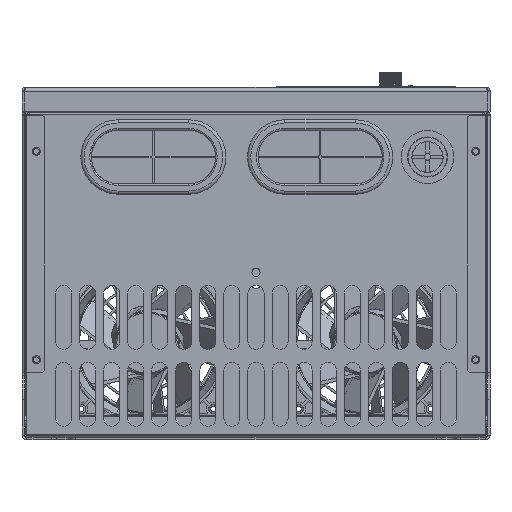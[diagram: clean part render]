
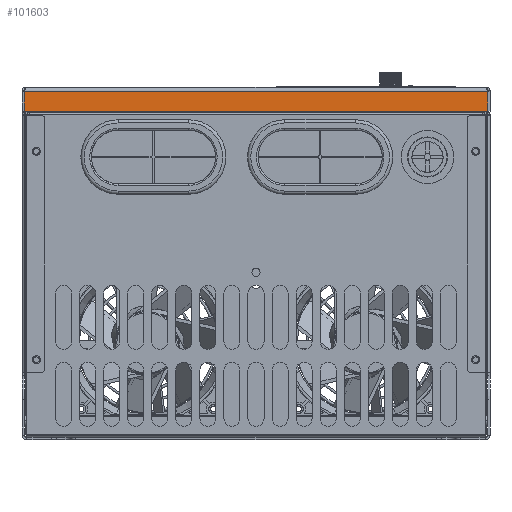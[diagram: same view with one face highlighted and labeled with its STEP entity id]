
A CAD part, front view. The second image highlights one B-rep face of the part: STEP entity #101603.
In plain terms, the highlighted planar face has unit normal (0, -1, 0).
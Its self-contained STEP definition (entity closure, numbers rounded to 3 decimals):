
#31005=DIRECTION('',(1.,0.,0.));
#31006=VECTOR('',#31005,289.);
#31007=CARTESIAN_POINT('',(-144.5,-232.6,215.8));
#31008=LINE('',#31007,#31006);
#31035=DIRECTION('',(0.,0.,-1.));
#31036=VECTOR('',#31035,12.3);
#31037=CARTESIAN_POINT('',(-144.5,-232.6,215.8));
#31038=LINE('',#31037,#31036);
#31047=DIRECTION('',(1.,0.,0.));
#31048=VECTOR('',#31047,289.);
#31049=CARTESIAN_POINT('',(-144.5,-232.6,203.5));
#31050=LINE('',#31049,#31048);
#31059=DIRECTION('',(0.,0.,-1.));
#31060=VECTOR('',#31059,12.3);
#31061=CARTESIAN_POINT('',(144.5,-232.6,215.8));
#31062=LINE('',#31061,#31060);
#45235=CARTESIAN_POINT('',(-144.5,-232.6,215.8));
#45236=CARTESIAN_POINT('',(-144.5,-232.6,203.5));
#45237=VERTEX_POINT('',#45235);
#45238=VERTEX_POINT('',#45236);
#45245=CARTESIAN_POINT('',(144.5,-232.6,203.5));
#45246=VERTEX_POINT('',#45245);
#45278=CARTESIAN_POINT('',(144.5,-232.6,215.8));
#45279=VERTEX_POINT('',#45278);
#101589=CARTESIAN_POINT('',(-146.,-232.6,218.5));
#101590=DIRECTION('',(0.,-1.,0.));
#101591=DIRECTION('',(0.,0.,-1.));
#101592=AXIS2_PLACEMENT_3D('',#101589,#101590,#101591);
#101593=PLANE('',#101592);
#101595=ORIENTED_EDGE('',*,*,#101594,.F.);
#101596=ORIENTED_EDGE('',*,*,#101576,.T.);
#101598=ORIENTED_EDGE('',*,*,#101597,.T.);
#101600=ORIENTED_EDGE('',*,*,#101599,.F.);
#101601=EDGE_LOOP('',(#101595,#101596,#101598,#101600));
#101602=FACE_OUTER_BOUND('',#101601,.F.);
#101603=ADVANCED_FACE('',(#101602),#101593,.T.);
#101576=EDGE_CURVE('',#45237,#45279,#31008,.T.);
#101594=EDGE_CURVE('',#45237,#45238,#31038,.T.);
#101597=EDGE_CURVE('',#45279,#45246,#31062,.T.);
#101599=EDGE_CURVE('',#45238,#45246,#31050,.T.);
